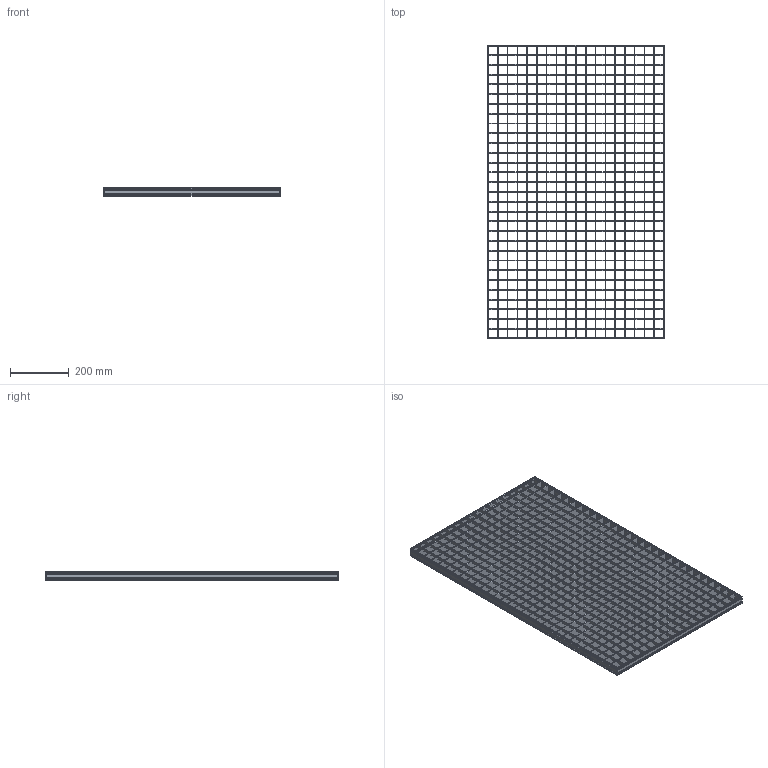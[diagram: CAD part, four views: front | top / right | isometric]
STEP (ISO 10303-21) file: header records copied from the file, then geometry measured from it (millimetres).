
FILE_DESCRIPTION(/* description */ ('STEP AP242','CAx-IF Rec.Pracs.---Representation and Presentation of Product Manufacturing Information (PMI)---4.0---2014-10-13','CAx-IF Rec.Pracs.---3D Tessellated Geometry---0.4---2014-09-14','2;1'),/* implementation_level */ '2;1');
FILE_NAME(/* name */ 'Lichtgitter_Pressure_locked_gratings P 330-33-3-1-1-600-1000_(350_0)',/* time_stamp */ '2026-04-22T14:38:40+02:00',/* author */ ('License CC BY-ND 4.0'),/* organization */ ('CADENAS'),/* preprocessor_version */ 'ST-DEVELOPER v20',/* originating_system */ 'PARTsolutions',/* authorisation */ ' ');
FILE_SCHEMA (('AP242_MANAGED_MODEL_BASED_3D_ENGINEERING_MIM_LF { 1 0 10303 442 1 1 4 }'));
Length unit declared in the file: millimetre
Products named in the file (5): Lichtgitter_Pressure_locked_gratings P 330-33-3-1-1-600-1000_(350_0); Lichtgitter P 330-33-3_(Pressroste_350_1_1000_600)_VERTICAL; Lichtgitter P 330-33-3_(Pressroste_350_1_1000_600)_HORIZONTAL_C; Lichtgitter P 330-33-3_(Pressroste_350_1_1000_600)_HORIZONTAL; Lichtgitter P 330-33-3_(Pressroste_350_1_1000_600)_VERTICAL_C
Assembly tree (50 placements, depth 2):
  Lichtgitter_Pressure_locked_gratings P 330-33-3-1-1-600-1000_(350_0)
    Lichtgitter P 330-33-3_(Pressroste_350_1_1000_600)_VERTICAL  x2
    Lichtgitter P 330-33-3_(Pressroste_350_1_1000_600)_HORIZONTAL_C  x29
    Lichtgitter P 330-33-3_(Pressroste_350_1_1000_600)_HORIZONTAL  x2
    Lichtgitter P 330-33-3_(Pressroste_350_1_1000_600)_VERTICAL_C  x17
Bounding box: 600 x 1000 x 30 mm (x, y, z)
Volume: 2137517.2 mm3; surface area: 1778032.5 mm2
Topology: 50 solids, 50 shells, 2320 faces, 6660 edges, 4440 vertices
Faces by surface type: plane 2288, cylinder 32
Entity records: 4167 total; most frequent: CARTESIAN_POINT 707, DIRECTION 690, ORIENTED_EDGE 648, EDGE_CURVE 324, LINE 292, VECTOR 292, VERTEX_POINT 216, AXIS2_PLACEMENT_3D 199
